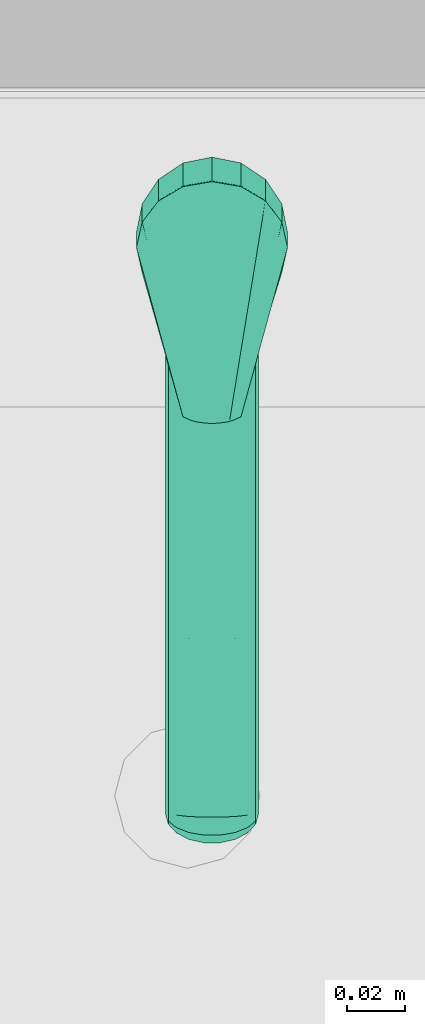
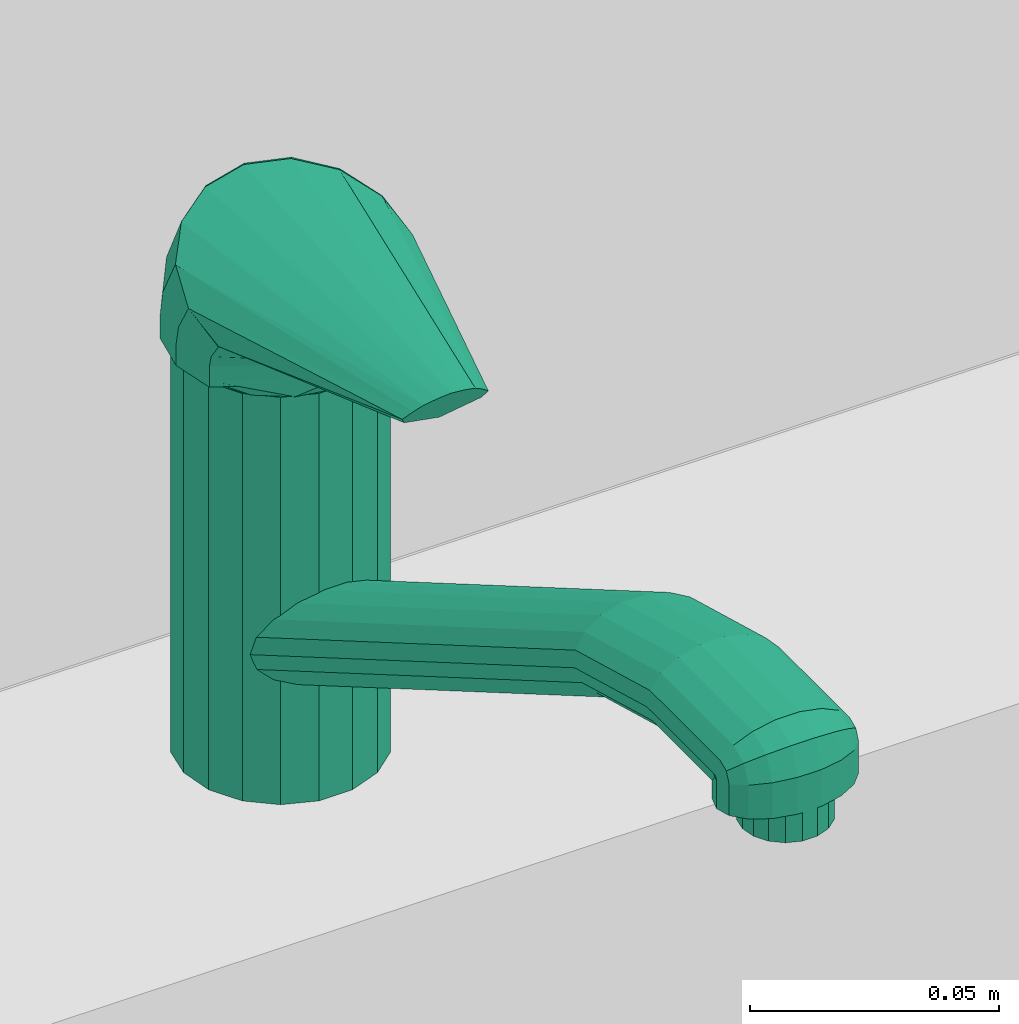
# One storey, part 118 of 194: 1 flow terminal.
"""IFC2X3 building model written with IfcOpenShell, lengths in millimetres."""

from ifc_helpers import new_model, entity, si_unit, converted_unit, derived_unit, money_unit, direction, frame, origin_with_axes, place, context, subcontext, project, spatial, open_shell, faceted_brep, surface_model, source, transform, mapped, type_object, element, save


model = new_model("IFC2X3")

# Units and contexts
model_context = context("Model", 3, precision=1e-05, world=origin_with_axes(), true_north=direction((0.0, 1.0)))
body_context = subcontext(model_context, "Body", "Model", "MODEL_VIEW")
ifc_project = project(units=[si_unit("LENGTHUNIT", "METRE", prefix="MILLI"), si_unit("AREAUNIT", "SQUARE_METRE"), si_unit("VOLUMEUNIT", "CUBIC_METRE"), converted_unit("PLANEANGLEUNIT", "DEGREE", entity("IfcPlaneAngleMeasure", 0.0174532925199), si_unit("PLANEANGLEUNIT", "RADIAN"), dimensions=[0, 0, 0, 0, 0, 0, 0]), si_unit("SOLIDANGLEUNIT", "STERADIAN"), money_unit("EUR"), converted_unit("TIMEUNIT", "Year", entity("IfcTimeMeasure", 31556926.0), si_unit("TIMEUNIT", "SECOND"), dimensions=[0, 0, 1, 0, 0, 0, 0]), si_unit("MASSUNIT", "GRAM", prefix="KILO"), si_unit("THERMODYNAMICTEMPERATUREUNIT", "DEGREE_CELSIUS"), si_unit("LUMINOUSINTENSITYUNIT", "LUMEN"), si_unit("ENERGYUNIT", "JOULE", prefix="MEGA"), derived_unit("THERMALCONDUCTANCEUNIT", [(si_unit("POWERUNIT", "WATT"), 1), (si_unit("LENGTHUNIT", "METRE"), -1), (si_unit("THERMODYNAMICTEMPERATUREUNIT", "KELVIN"), -1)]), derived_unit("SPECIFICHEATCAPACITYUNIT", [(si_unit("ENERGYUNIT", "JOULE"), 1), (si_unit("MASSUNIT", "GRAM", prefix="KILO"), -1), (si_unit("THERMODYNAMICTEMPERATUREUNIT", "KELVIN"), -1)]), derived_unit("MASSDENSITYUNIT", [(si_unit("MASSUNIT", "GRAM", prefix="KILO"), 1), (si_unit("VOLUMEUNIT", "CUBIC_METRE"), -1)])], contexts=[model_context])

# Site, building, storey
site_placement = place(None, origin_with_axes())
site = spatial("IfcSite", under=ifc_project, at=site_placement, Name="Site", CompositionType="ELEMENT")
building_placement = place(site_placement, origin_with_axes())
building = spatial("IfcBuilding", under=site, at=building_placement, Name="Building", CompositionType="ELEMENT")
storey_placement = place(building_placement, frame((0.0, 0.0, 3000.0), z_axis=(0.0, 0.0, 1.0), x_axis=(1.0, 0.0, 0.0)))
storey = spatial("IfcBuildingStorey", under=building, at=storey_placement, Name="2 KORRUS", CompositionType="ELEMENT", Elevation=3000.0)

# Flow terminal
sanitary_terminal_type = type_object("IfcSanitaryTerminalType", Name="Tap 22", PredefinedType="NOTDEFINED")
shared_shape = source(origin_with_axes(), body_context, "Body", "SurfaceModel", [
    faceted_brep([(-21.1430839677, -7.69545322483, 1000.0), (-22.5, 0.0, 1000.0), (-21.1430839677, 7.69545322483, 1000.0), (-17.2359999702, 14.4627212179, 1000.0), (-11.25, 19.4855715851, 1000.0), (-3.90708399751, 22.1581744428, 1000.0), (3.90708399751, 22.1581744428, 1000.0), (11.25, 19.4855715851, 1000.0), (17.2359999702, 14.4627212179, 1000.0), (21.1430839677, 7.69545322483, 1000.0), (22.5, 0.0, 1000.0), (21.1430839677, -7.69545322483, 1000.0), (17.2359999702, -14.4627212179, 1000.0), (11.25, -19.4855715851, 1000.0), (3.90708399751, -22.1581744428, 1000.0), (-3.90708399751, -22.1581744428, 1000.0), (-11.25, -19.4855715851, 1000.0), (-17.2359999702, -14.4627212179, 1000.0), (-21.1430839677, -7.69545322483, 1010.0), (-22.5, 0.0, 1010.0), (-21.1430839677, 7.69545322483, 1010.0), (-17.2359999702, 14.4627212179, 1010.0), (-11.25, 19.4855715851, 1010.0), (-3.90708399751, 22.1581744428, 1010.0), (3.90708399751, 22.1581744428, 1010.0), (11.25, 19.4855715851, 1010.0), (17.2359999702, 14.4627212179, 1010.0), (21.1430839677, 7.69545322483, 1010.0), (22.5, 0.0, 1010.0), (21.1430839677, -7.69545322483, 1010.0), (17.2359999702, -14.4627212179, 1010.0), (11.25, -19.4855715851, 1010.0), (3.90708399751, -22.1581744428, 1010.0), (-3.90708399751, -22.1581744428, 1010.0), (-11.25, -19.4855715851, 1010.0), (-17.2359999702, -14.4627212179, 1010.0)], [[[0, 1, 2, 3, 4, 5, 6, 7, 8, 9, 10, 11, 12, 13, 14, 15, 16, 17]], [[0, 18, 19, 1]], [[1, 19, 20, 2]], [[2, 20, 21, 3]], [[3, 21, 22, 4]], [[4, 22, 23, 5]], [[5, 23, 24, 6]], [[6, 24, 25, 7]], [[7, 25, 26, 8]], [[8, 26, 27, 9]], [[9, 27, 28, 10]], [[10, 28, 29, 11]], [[11, 29, 30, 12]], [[12, 30, 31, 13]], [[13, 31, 32, 14]], [[14, 32, 33, 15]], [[15, 33, 34, 16]], [[16, 34, 35, 17]], [[17, 35, 18, 0]], [[18, 35, 34, 33, 32, 31, 30, 29, 28, 27, 26, 25, 24, 23, 22, 21, 20, 19]]]),
    faceted_brep([(-21.1430839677, -7.69545322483, 1010.0), (-22.5, 0.0, 1010.0), (-21.1430839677, 7.69545322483, 1010.0), (-17.2359999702, 14.4627212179, 1010.0), (-11.25, 19.4855715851, 1010.0), (-3.90708399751, 22.1581744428, 1010.0), (3.90708399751, 22.1581744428, 1010.0), (11.25, 19.4855715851, 1010.0), (17.2359999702, 14.4627212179, 1010.0), (21.1430839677, 7.69545322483, 1010.0), (22.5, 0.0, 1010.0), (21.1430839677, -7.69545322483, 1010.0), (17.2359999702, -14.4627212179, 1010.0), (11.25, -19.4855715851, 1010.0), (3.90708399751, -22.1581744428, 1010.0), (-3.90708399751, -22.1581744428, 1010.0), (-11.25, -19.4855715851, 1010.0), (-17.2359999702, -14.4627212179, 1010.0), (-21.1430839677, -7.69545322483, 1055.0), (-22.5, 0.0, 1055.0), (-21.1430839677, 7.69545322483, 1055.0), (-17.2359999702, 14.4627212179, 1055.0), (-11.25, 19.4855715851, 1055.0), (-3.90708399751, 22.1581744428, 1055.0), (3.90708399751, 22.1581744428, 1055.0), (11.25, 19.4855715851, 1055.0), (17.2359999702, 14.4627212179, 1055.0), (21.1430839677, 7.69545322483, 1055.0), (22.5, 0.0, 1055.0), (21.1430839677, -7.69545322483, 1055.0), (17.2359999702, -14.4627212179, 1055.0), (11.25, -19.4855715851, 1055.0), (3.90708399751, -22.1581744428, 1055.0), (-3.90708399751, -22.1581744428, 1055.0), (-11.25, -19.4855715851, 1055.0), (-17.2359999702, -14.4627212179, 1055.0)], [[[0, 1, 2, 3, 4, 5, 6, 7, 8, 9, 10, 11, 12, 13, 14, 15, 16, 17]], [[0, 18, 19, 1]], [[1, 19, 20, 2]], [[2, 20, 21, 3]], [[3, 21, 22, 4]], [[4, 22, 23, 5]], [[5, 23, 24, 6]], [[6, 24, 25, 7]], [[7, 25, 26, 8]], [[8, 26, 27, 9]], [[9, 27, 28, 10]], [[10, 28, 29, 11]], [[11, 29, 30, 12]], [[12, 30, 31, 13]], [[13, 31, 32, 14]], [[14, 32, 33, 15]], [[15, 33, 34, 16]], [[16, 34, 35, 17]], [[17, 35, 18, 0]], [[18, 35, 34, 33, 32, 31, 30, 29, 28, 27, 26, 25, 24, 23, 22, 21, 20, 19]]]),
    faceted_brep([(-21.1430839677, -7.69545322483, 1055.0), (-22.5, 0.0, 1055.0), (-21.1430839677, 7.69545322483, 1055.0), (-17.2359999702, 14.4627212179, 1055.0), (-11.25, 19.4855715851, 1055.0), (-3.90708399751, 22.1581744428, 1055.0), (3.90708399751, 22.1581744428, 1055.0), (11.25, 19.4855715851, 1055.0), (17.2359999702, 14.4627212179, 1055.0), (21.1430839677, 7.69545322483, 1055.0), (22.5, 0.0, 1055.0), (21.1430839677, -7.69545322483, 1055.0), (17.2359999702, -14.4627212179, 1055.0), (11.25, -19.4855715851, 1055.0), (3.90708399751, -22.1581744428, 1055.0), (-3.90708399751, -22.1581744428, 1055.0), (-11.25, -19.4855715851, 1055.0), (-17.2359999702, -14.4627212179, 1055.0), (-21.1430839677, -7.69545322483, 1100.0), (-22.5, 0.0, 1100.0), (-21.1430839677, 7.69545322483, 1100.0), (-17.2359999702, 14.4627212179, 1100.0), (-11.25, 19.4855715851, 1100.0), (-3.90708399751, 22.1581744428, 1100.0), (3.90708399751, 22.1581744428, 1100.0), (11.25, 19.4855715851, 1100.0), (17.2359999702, 14.4627212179, 1100.0), (21.1430839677, 7.69545322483, 1100.0), (22.5, 0.0, 1100.0), (21.1430839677, -7.69545322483, 1100.0), (17.2359999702, -14.4627212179, 1100.0), (11.25, -19.4855715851, 1100.0), (3.90708399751, -22.1581744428, 1100.0), (-3.90708399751, -22.1581744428, 1100.0), (-11.25, -19.4855715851, 1100.0), (-17.2359999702, -14.4627212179, 1100.0)], [[[0, 1, 2, 3, 4, 5, 6, 7, 8, 9, 10, 11, 12, 13, 14, 15, 16, 17]], [[0, 18, 19, 1]], [[1, 19, 20, 2]], [[2, 20, 21, 3]], [[3, 21, 22, 4]], [[4, 22, 23, 5]], [[5, 23, 24, 6]], [[6, 24, 25, 7]], [[7, 25, 26, 8]], [[8, 26, 27, 9]], [[9, 27, 28, 10]], [[10, 28, 29, 11]], [[11, 29, 30, 12]], [[12, 30, 31, 13]], [[13, 31, 32, 14]], [[14, 32, 33, 15]], [[15, 33, 34, 16]], [[16, 34, 35, 17]], [[17, 35, 18, 0]], [[18, 35, 34, 33, 32, 31, 30, 29, 28, 27, 26, 25, 24, 23, 22, 21, 20, 19]]]),
    surface_model("IfcShellBasedSurfaceModel", [(-20.7872894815, -8.61037722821, 1100.0), (-24.0208678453, -12.9497692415, 1104.5), (-26.0, -3.0, 1104.5), (-22.5, 0.0, 1100.0), (-15.9099025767, -15.9099025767, 1100.0), (-24.0208678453, -12.9497692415, 1104.5), (-24.0208678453, 6.94976924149, 1104.5), (-20.7872894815, 8.61037722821, 1100.0), (-8.61037722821, -20.7872894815, 1100.0), (-18.3847763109, 15.3847763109, 1104.5), (-15.9099025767, 15.9099025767, 1100.0), (0.0, -25.1, 1104.5), (-9.94976924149, 21.0208678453, 1104.5), (-8.61037722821, 20.7872894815, 1100.0), (0.0, -22.5, 1100.0), (0.0, 23.0, 1104.5), (0.0, 22.5, 1100.0), (8.61037722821, -20.7872894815, 1100.0), (9.94976924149, 21.0208678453, 1104.5), (8.61037722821, 20.7872894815, 1100.0), (15.9099025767, -15.9099025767, 1100.0), (18.3847763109, 15.3847763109, 1104.5), (15.9099025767, 15.9099025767, 1100.0), (24.0208678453, -12.9497692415, 1104.5), (24.0208678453, 6.94976924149, 1104.5), (20.7872894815, 8.61037722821, 1100.0), (20.7872894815, -8.61037722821, 1100.0), (26.0, -3.0, 1104.5), (22.5, 0.0, 1100.0)], [open_shell([[[0, 1, 2, 3]], [[4, 5, 1, 0]], [[3, 2, 6, 7]], [[8, 5, 4]], [[7, 6, 9, 10]], [[8, 11, 5]], [[10, 9, 12, 13]], [[14, 11, 8]], [[13, 12, 15, 16]], [[17, 11, 14]], [[16, 15, 18, 19]], [[20, 11, 17]], [[19, 18, 21, 22]], [[20, 23, 11]], [[22, 21, 24, 25]], [[26, 23, 20]], [[25, 24, 27, 28]], [[28, 27, 23, 26]]])]),
    surface_model("IfcShellBasedSurfaceModel", [(-24.0208678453, -12.9497692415, 1103.0), (-24.0208678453, -12.9497692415, 1108.0), (-26.0, -3.0, 1108.0), (-24.0208678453, -12.9497692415, 1103.0), (-26.0, -4.0, 1113.0), (-26.0, -3.0, 1103.0), (-24.0208678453, -12.9497692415, 1108.0), (-24.0208678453, 5.75655144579, 1114.95131029), (-24.0208678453, -13.7565514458, 1111.04868971), (-24.0208678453, 6.94976924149, 1108.0), (0.0, -25.1, 1103.0), (-24.0208678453, 0.638818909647, 1124.93646795), (-26.0, -8.0, 1120.0), (-24.0208678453, 6.94976924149, 1103.0), (0.0, -25.1, 1108.0), (-24.0208678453, -13.7565514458, 1111.04868971), (-18.3847763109, 7.96245595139, 1129.1214034), (-18.3847763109, 14.0277563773, 1116.60555128), (-24.0208678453, -16.6388189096, 1115.06353205), (-18.3847763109, 15.3847763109, 1108.0), (24.0208678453, -12.9497692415, 1103.0), (-18.3847763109, 15.3847763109, 1103.0), (24.0208678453, -12.9497692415, 1108.0), (0.0, -25.6708329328, 1108.66583341), (-24.0208678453, -16.6388189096, 1115.06353205), (-9.94976924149, 12.8559537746, 1131.91768787), (-9.94976924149, 19.5543988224, 1117.71087976), (-9.94976924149, 21.0208678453, 1108.0), (26.0, -3.0, 1103.0), (-9.94976924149, 21.0208678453, 1103.0), (26.0, -3.0, 1108.0), (24.0208678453, -13.7565514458, 1111.04868971), (0.0, -27.188173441, 1109.03532946), (0.0, 14.5743216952, 1132.8996124), (0.0, 21.495097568, 1118.09901951), (0.0, 23.0, 1108.0), (24.0208678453, 6.94976924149, 1103.0), (0.0, 23.0, 1103.0), (24.0208678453, 6.94976924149, 1108.0), (26.0, -4.0, 1113.0), (24.0208678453, -16.6388189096, 1115.06353205), (9.94976924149, 12.8559537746, 1131.91768787), (9.94976924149, 19.5543988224, 1117.71087976), (9.94976924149, 21.0208678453, 1108.0), (18.3847763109, 15.3847763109, 1103.0), (9.94976924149, 21.0208678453, 1103.0), (18.3847763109, 15.3847763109, 1108.0), (24.0208678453, 5.75655144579, 1114.95131029), (26.0, -8.0, 1120.0), (18.3847763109, 7.96245595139, 1129.1214034), (18.3847763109, 14.0277563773, 1116.60555128), (24.0208678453, 0.638818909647, 1124.93646795)], [open_shell([[[0, 1, 2]], [[1, 0, 3]], [[4, 2, 1]], [[2, 5, 0]], [[3, 6, 1]], [[2, 4, 7]], [[1, 8, 4]], [[5, 2, 9]], [[6, 3, 10]], [[8, 1, 6]], [[11, 7, 4]], [[7, 9, 2]], [[12, 4, 8]], [[9, 13, 5]], [[10, 14, 6]], [[6, 15, 8]], [[7, 11, 16]], [[4, 12, 11]], [[9, 7, 17]], [[8, 18, 12]], [[13, 9, 19]], [[14, 10, 20]], [[15, 6, 14]], [[18, 8, 15]], [[16, 17, 7]], [[17, 19, 9]], [[19, 21, 13]], [[20, 22, 14]], [[14, 23, 15]], [[15, 24, 18]], [[17, 16, 25]], [[19, 17, 26]], [[21, 19, 27]], [[22, 20, 28]], [[23, 14, 22]], [[24, 15, 23]], [[25, 26, 17]], [[26, 27, 19]], [[27, 29, 21]], [[28, 30, 22]], [[22, 31, 23]], [[23, 32, 24]], [[26, 25, 33]], [[27, 26, 34]], [[29, 27, 35]], [[30, 28, 36]], [[31, 22, 30]], [[32, 23, 31]], [[33, 34, 26]], [[34, 35, 27]], [[35, 37, 29]], [[36, 38, 30]], [[30, 39, 31]], [[31, 40, 32]], [[34, 33, 41]], [[35, 34, 42]], [[37, 35, 43]], [[38, 36, 44]], [[39, 30, 38]], [[40, 31, 39]], [[41, 42, 34]], [[42, 43, 35]], [[43, 45, 37]], [[44, 46, 38]], [[38, 47, 39]], [[39, 48, 40]], [[42, 41, 49]], [[43, 42, 50]], [[45, 43, 46]], [[46, 44, 45]], [[47, 38, 46]], [[48, 39, 47]], [[49, 50, 42]], [[50, 46, 43]], [[46, 50, 47]], [[47, 51, 48]], [[50, 49, 51]], [[51, 47, 50]]])]),
    surface_model("IfcShellBasedSurfaceModel", [(-24.0208678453, -16.7440274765, 1115.25238044), (-10.0, -66.2556184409, 1122.50657537), (-26.0, -8.0, 1120.0), (-9.0, -65.3013009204, 1120.74894114), (-8.0, -67.2099359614, 1124.26420959), (0.0, -27.4218581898, 1109.4547914), (0.0, -63.8698246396, 1118.1124898), (9.0, -65.3013009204, 1120.74894114), (10.0, -66.2556184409, 1122.50657537), (8.0, -67.2099359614, 1124.26420959), (6.0, -67.9256741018, 1125.58243526), (3.0, -68.4028328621, 1126.46125237), (0.0, -68.6414122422, 1126.90066093), (-3.0, -68.4028328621, 1126.46125237), (-6.0, -67.9256741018, 1125.58243526), (-24.0208678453, 0.744027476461, 1124.74761956), (24.0208678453, -16.7440274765, 1115.25238044), (26.0, -8.0, 1120.0), (24.0208678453, 0.744027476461, 1124.74761956), (18.3847763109, 8.15685603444, 1128.77245707), (9.94976924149, 13.1099497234, 1131.46176752), (0.0, 14.8492449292, 1132.40612777), (-9.94976924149, 13.1099497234, 1131.46176752), (-18.3847763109, 8.15685603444, 1128.77245707)], [open_shell([[[0, 1, 2]], [[0, 3, 1]], [[2, 1, 4]], [[5, 3, 0]], [[3, 6, 7, 8, 9, 10, 11, 12, 13, 14, 4, 1]], [[2, 4, 15]], [[5, 6, 3]], [[16, 7, 6]], [[17, 8, 7]], [[18, 9, 8]], [[19, 10, 9]], [[20, 11, 10]], [[21, 12, 11]], [[22, 13, 12]], [[23, 14, 13]], [[15, 4, 14]], [[16, 6, 5]], [[17, 7, 16]], [[18, 8, 17]], [[19, 9, 18]], [[20, 10, 19]], [[21, 11, 20]], [[22, 12, 21]], [[23, 13, 22]], [[15, 14, 23]]])]),
    surface_model("IfcShellBasedSurfaceModel", [(-16.0, -15.0, 1035.8), (-16.0, -146.0, 1112.0), (-15.0350819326, -144.663324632, 1115.17921593), (-15.0350819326, -13.350271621, 1038.79711945), (-15.0350819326, -16.649728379, 1032.80288055), (-15.0350819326, -147.336675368, 1108.82078407), (-16.0, -175.0, 1120.0), (-15.0350819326, -174.536897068, 1123.42020143), (-12.2567110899, -143.487872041, 1117.97497151), (-12.2567110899, -11.8995248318, 1041.43274206), (-12.2567110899, -18.1004751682, 1030.16725794), (-12.2567110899, -148.512127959, 1106.02502849), (-15.0350819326, -175.463102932, 1116.57979857), (-16.0, -202.0, 1120.0), (-15.0350819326, -202.702022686, 1123.42020143), (-12.2567110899, -174.129651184, 1126.4278761), (-8.0, -142.615419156, 1120.05005733), (-8.0, -10.8227411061, 1043.38897285), (-8.0, -19.1772588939, 1028.21102715), (-8.0, -149.384580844, 1103.94994267), (-12.2567110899, -175.870348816, 1113.5721239), (-15.0350819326, -201.297977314, 1116.57979857), (-16.0, -202.7, 1119.7), (-15.0350819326, -205.304747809, 1122.30474781), (-12.2567110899, -203.319371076, 1126.4278761), (-8.0, -173.827382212, 1128.66025404), (-2.77837084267, -142.151196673, 1121.15418744), (-2.77837084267, -10.2497964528, 1044.42986151), (-2.77837084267, -19.7502035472, 1027.17013849), (-2.77837084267, -149.848803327, 1102.84581256), (-8.0, -176.172617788, 1111.33974596), (-12.2567110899, -200.680628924, 1113.5721239), (-15.0350819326, -200.095252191, 1117.09525219), (-16.0, -203.0, 1119.0), (-15.0350819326, -206.420201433, 1119.70202269), (-12.2567110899, -207.595324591, 1124.59532459), (-8.0, -203.777583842, 1128.66025404), (-2.77837084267, -173.666548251, 1129.84807753), (2.77837084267, -142.151196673, 1121.15418744), (2.77837084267, -10.2497964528, 1044.42986151), (2.77837084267, -19.7502035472, 1027.17013849), (2.77837084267, -149.848803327, 1102.84581256), (-2.77837084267, -176.333451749, 1110.15192247), (-8.0, -200.222416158, 1111.33974596), (-12.2567110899, -197.804675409, 1114.80467541), (-15.0350819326, -199.579798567, 1118.29797731), (-16.0, -203.0, 1112.0), (-15.0350819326, -206.420201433, 1112.0), (-12.2567110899, -209.427876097, 1120.31937108), (-8.0, -209.295452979, 1126.29545298), (-2.77837084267, -204.021393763, 1129.84807753), (2.77837084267, -173.666548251, 1129.84807753), (8.0, -142.615419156, 1120.05005733), (8.0, -10.8227411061, 1043.38897285), (8.0, -19.1772588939, 1028.21102715), (8.0, -149.384580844, 1103.94994267), (2.77837084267, -176.333451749, 1110.15192247), (-2.77837084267, -199.978606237, 1110.15192247), (-8.0, -196.104547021, 1113.10454702), (-12.2567110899, -196.572123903, 1117.68062892), (-15.0350819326, -199.579798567, 1112.0), (-12.2567110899, -196.572123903, 1112.0), (-8.0, -194.339745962, 1112.0), (-2.77837084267, -193.15192247, 1112.0), (2.77837084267, -193.15192247, 1112.0), (8.0, -194.339745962, 1112.0), (12.2567110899, -196.572123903, 1112.0), (15.0350819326, -199.579798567, 1112.0), (16.0, -203.0, 1112.0), (15.0350819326, -206.420201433, 1112.0), (12.2567110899, -209.427876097, 1112.0), (8.0, -211.660254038, 1112.0), (2.77837084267, -212.84807753, 1112.0), (-2.77837084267, -212.84807753, 1112.0), (-8.0, -211.660254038, 1112.0), (-12.2567110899, -209.427876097, 1112.0), (-8.0, -211.660254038, 1120.77758384), (-2.77837084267, -210.2000724, 1127.2000724), (2.77837084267, -204.021393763, 1129.84807753), (8.0, -173.827382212, 1128.66025404), (12.2567110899, -143.487872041, 1117.97497151), (12.2567110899, -11.8995248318, 1041.43274206), (12.2567110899, -18.1004751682, 1030.16725794), (12.2567110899, -148.512127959, 1106.02502849), (8.0, -176.172617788, 1111.33974596), (2.77837084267, -199.978606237, 1110.15192247), (-2.77837084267, -195.1999276, 1112.1999276), (-8.0, -194.339745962, 1117.22241616), (-2.77837084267, -193.15192247, 1116.97860624), (2.77837084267, -193.15192247, 1116.97860624), (8.0, -194.339745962, 1117.22241616), (12.2567110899, -196.572123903, 1117.68062892), (15.0350819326, -199.579798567, 1118.29797731), (16.0, -203.0, 1119.0), (15.0350819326, -206.420201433, 1119.70202269), (12.2567110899, -209.427876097, 1120.31937108), (8.0, -211.660254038, 1120.77758384), (2.77837084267, -212.84807753, 1121.02139376), (-2.77837084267, -212.84807753, 1121.02139376), (2.77837084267, -210.2000724, 1127.2000724), (8.0, -203.777583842, 1128.66025404), (12.2567110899, -174.129651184, 1126.4278761), (15.0350819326, -144.663324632, 1115.17921593), (15.0350819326, -13.350271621, 1038.79711945), (15.0350819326, -16.649728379, 1032.80288055), (15.0350819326, -147.336675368, 1108.82078407), (12.2567110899, -175.870348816, 1113.5721239), (8.0, -200.222416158, 1111.33974596), (2.77837084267, -195.1999276, 1112.1999276), (8.0, -196.104547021, 1113.10454702), (12.2567110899, -197.804675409, 1114.80467541), (15.0350819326, -200.095252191, 1117.09525219), (16.0, -202.7, 1119.7), (15.0350819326, -205.304747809, 1122.30474781), (12.2567110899, -207.595324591, 1124.59532459), (8.0, -209.295452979, 1126.29545298), (12.2567110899, -203.319371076, 1126.4278761), (15.0350819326, -174.536897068, 1123.42020143), (16.0, -146.0, 1112.0), (16.0, -15.0, 1035.8), (15.0350819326, -175.463102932, 1116.57979857), (12.2567110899, -200.680628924, 1113.5721239), (15.0350819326, -201.297977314, 1116.57979857), (16.0, -202.0, 1120.0), (15.0350819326, -202.702022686, 1123.42020143), (16.0, -175.0, 1120.0)], [open_shell([[[0, 1, 2, 3]], [[4, 5, 1, 0]], [[1, 6, 7, 2]], [[3, 2, 8, 9]], [[10, 11, 5, 4]], [[5, 12, 6, 1]], [[6, 13, 14, 7]], [[2, 7, 15, 8]], [[9, 8, 16, 17]], [[18, 19, 11, 10]], [[11, 20, 12, 5]], [[12, 21, 13, 6]], [[13, 22, 23, 14]], [[7, 14, 24, 15]], [[8, 15, 25, 16]], [[17, 16, 26, 27]], [[28, 29, 19, 18]], [[19, 30, 20, 11]], [[20, 31, 21, 12]], [[21, 32, 22, 13]], [[22, 33, 34, 23]], [[14, 23, 35, 24]], [[15, 24, 36, 25]], [[16, 25, 37, 26]], [[27, 26, 38, 39]], [[40, 41, 29, 28]], [[29, 42, 30, 19]], [[30, 43, 31, 20]], [[31, 44, 32, 21]], [[32, 45, 33, 22]], [[33, 46, 47, 34]], [[23, 34, 48, 35]], [[24, 35, 49, 36]], [[25, 36, 50, 37]], [[26, 37, 51, 38]], [[39, 38, 52, 53]], [[54, 55, 41, 40]], [[41, 56, 42, 29]], [[42, 57, 43, 30]], [[43, 58, 44, 31]], [[44, 59, 45, 32]], [[45, 60, 46, 33]], [[46, 60, 61, 62, 63, 64, 65, 66, 67, 68, 69, 70, 71, 72, 73, 74, 75, 47]], [[34, 47, 75, 48]], [[35, 48, 76, 49]], [[36, 49, 77, 50]], [[37, 50, 78, 51]], [[38, 51, 79, 52]], [[53, 52, 80, 81]], [[82, 83, 55, 54]], [[55, 84, 56, 41]], [[56, 85, 57, 42]], [[57, 86, 58, 43]], [[58, 87, 59, 44]], [[59, 61, 60, 45]], [[87, 62, 61, 59]], [[88, 63, 62, 87]], [[89, 64, 63, 88]], [[90, 65, 64, 89]], [[91, 66, 65, 90]], [[92, 67, 66, 91]], [[93, 68, 67, 92]], [[94, 69, 68, 93]], [[95, 70, 69, 94]], [[96, 71, 70, 95]], [[97, 72, 71, 96]], [[98, 73, 72, 97]], [[76, 74, 73, 98]], [[48, 75, 74, 76]], [[49, 76, 98, 77]], [[50, 77, 99, 78]], [[51, 78, 100, 79]], [[52, 79, 101, 80]], [[81, 80, 102, 103]], [[104, 105, 83, 82]], [[83, 106, 84, 55]], [[84, 107, 85, 56]], [[85, 108, 86, 57]], [[86, 88, 87, 58]], [[108, 89, 88, 86]], [[109, 90, 89, 108]], [[110, 91, 90, 109]], [[111, 92, 91, 110]], [[112, 93, 92, 111]], [[113, 94, 93, 112]], [[114, 95, 94, 113]], [[115, 96, 95, 114]], [[99, 97, 96, 115]], [[77, 98, 97, 99]], [[78, 99, 115, 100]], [[79, 100, 116, 101]], [[80, 101, 117, 102]], [[103, 102, 118, 119]], [[119, 118, 105, 104]], [[105, 120, 106, 83]], [[106, 121, 107, 84]], [[107, 109, 108, 85]], [[121, 110, 109, 107]], [[122, 111, 110, 121]], [[123, 112, 111, 122]], [[124, 113, 112, 123]], [[116, 114, 113, 124]], [[100, 115, 114, 116]], [[101, 116, 124, 117]], [[102, 117, 125, 118]], [[118, 125, 120, 105]], [[120, 122, 121, 106]], [[125, 123, 122, 120]], [[117, 124, 123, 125]]])]),
    faceted_brep([(-9.39692620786, -199.579798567, 1112.0), (-10.0, -203.0, 1112.0), (-9.39692620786, -206.420201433, 1112.0), (-7.66044443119, -209.427876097, 1112.0), (-5.0, -211.660254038, 1112.0), (-1.73648177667, -212.84807753, 1112.0), (1.73648177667, -212.84807753, 1112.0), (5.0, -211.660254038, 1112.0), (7.66044443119, -209.427876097, 1112.0), (9.39692620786, -206.420201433, 1112.0), (10.0, -203.0, 1112.0), (9.39692620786, -199.579798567, 1112.0), (7.66044443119, -196.572123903, 1112.0), (5.0, -194.339745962, 1112.0), (1.73648177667, -193.15192247, 1112.0), (-1.73648177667, -193.15192247, 1112.0), (-5.0, -194.339745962, 1112.0), (-7.66044443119, -196.572123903, 1112.0), (-9.39692620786, -199.579798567, 1105.0), (-10.0, -203.0, 1105.0), (-9.39692620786, -206.420201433, 1105.0), (-7.66044443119, -209.427876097, 1105.0), (-5.0, -211.660254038, 1105.0), (-1.73648177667, -212.84807753, 1105.0), (1.73648177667, -212.84807753, 1105.0), (5.0, -211.660254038, 1105.0), (7.66044443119, -209.427876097, 1105.0), (9.39692620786, -206.420201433, 1105.0), (10.0, -203.0, 1105.0), (9.39692620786, -199.579798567, 1105.0), (7.66044443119, -196.572123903, 1105.0), (5.0, -194.339745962, 1105.0), (1.73648177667, -193.15192247, 1105.0), (-1.73648177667, -193.15192247, 1105.0), (-5.0, -194.339745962, 1105.0), (-7.66044443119, -196.572123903, 1105.0)], [[[0, 1, 2, 3, 4, 5, 6, 7, 8, 9, 10, 11, 12, 13, 14, 15, 16, 17]], [[0, 18, 19, 1]], [[1, 19, 20, 2]], [[2, 20, 21, 3]], [[3, 21, 22, 4]], [[4, 22, 23, 5]], [[5, 23, 24, 6]], [[6, 24, 25, 7]], [[7, 25, 26, 8]], [[8, 26, 27, 9]], [[9, 27, 28, 10]], [[10, 28, 29, 11]], [[11, 29, 30, 12]], [[12, 30, 31, 13]], [[13, 31, 32, 14]], [[14, 32, 33, 15]], [[15, 33, 34, 16]], [[16, 34, 35, 17]], [[17, 35, 18, 0]], [[18, 35, 34, 33, 32, 31, 30, 29, 28, 27, 26, 25, 24, 23, 22, 21, 20, 19]]]),
])
flow_terminal_placement = place(storey_placement, frame((32491.8320274, 13436.9690621, -160.0), z_axis=(0.0, 0.0, 1.0), x_axis=(1.0, 0.0, 0.0)))
element("IfcFlowTerminal", 1, at=flow_terminal_placement, inside=storey, type_object=sanitary_terminal_type, Name="Valamu", context=body_context, shape_type="MappedRepresentation", body=[
    mapped(shared_shape, transform((0.0, 0.0, 0.0))),
])

save(model, "model.ifc")
